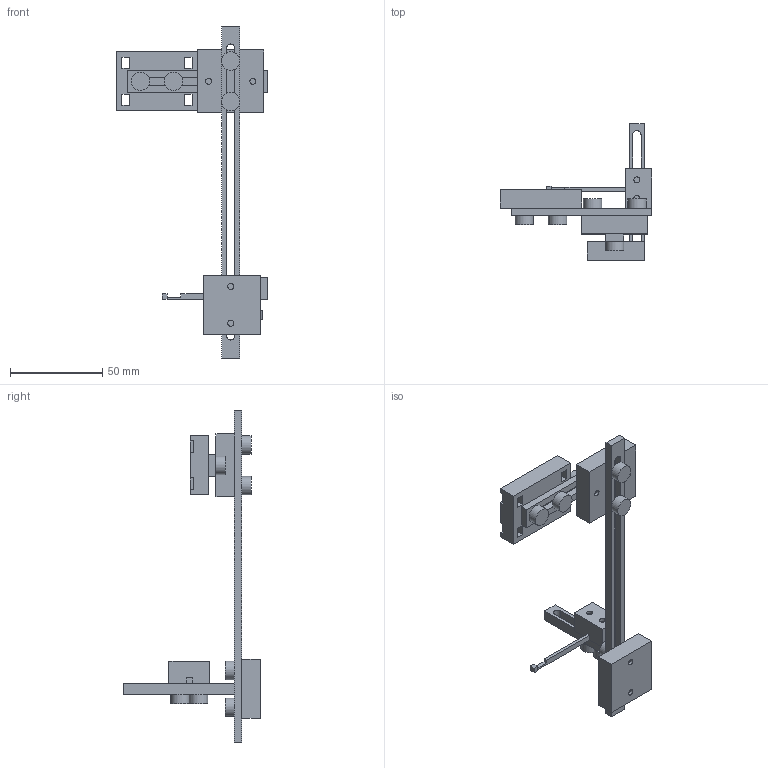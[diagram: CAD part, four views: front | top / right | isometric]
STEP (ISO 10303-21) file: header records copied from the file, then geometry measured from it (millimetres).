
FILE_DESCRIPTION(('Open CASCADE Model'),'2;1');
FILE_NAME('Open CASCADE Shape Model','2026-11-08T05:54:24',('Author'),( 'Open CASCADE'),'Open CASCADE STEP processor 7.8','Open CASCADE 7.8' ,'Unknown');
FILE_SCHEMA(('AUTOMOTIVE_DESIGN { 1 0 10303 214 1 1 1 1 }'));
Length unit declared in the file: millimetre
Products named in the file (17): M4_screw_reference_no_modeled_threads; moving_strap_mount; moving_horizontal_bar; moving_corner; moving_vertical_rail; moving_depth_carriage; moving_target_arm; moving_M4_A_01_L12; moving_M4_A_02_L12; moving_M4_B_03_L12; moving_M4_B_04_L12; moving_M4_C_05_L12; moving_M4_C_06_L12; moving_M4_D_07_L12; moving_M4_D_08_L12; moving_M4_E_09_L16; moving_M4_E_10_L16
Assembly tree (16 placements, depth 2):
  M4_screw_reference_no_modeled_threads
    moving_strap_mount
    moving_horizontal_bar
    moving_corner
    moving_vertical_rail
    moving_depth_carriage
    moving_target_arm
    moving_M4_A_01_L12
    moving_M4_A_02_L12
    moving_M4_B_03_L12
    moving_M4_B_04_L12
    moving_M4_C_05_L12
    moving_M4_C_06_L12
    moving_M4_D_07_L12
    moving_M4_D_08_L12
    moving_M4_E_09_L16
    moving_M4_E_10_L16
Bounding box: 82 x 74 x 180 mm (x, y, z)
Volume: 51813.6 mm3; surface area: 29132.2 mm2
Topology: 16 solids, 16 shells, 152 faces, 348 edges, 232 vertices
Faces by surface type: plane 116, cylinder 36
Full cylindrical faces by diameter (mm): 3.3 x10, 4 x10, 10 x10
Entity records: 9288 total; most frequent: CARTESIAN_POINT 1505, DIRECTION 1444, LINE 900, VECTOR 900, ORIENTED_EDGE 696, PCURVE 696, DEFINITIONAL_REPRESENTATION 696, EDGE_CURVE 348
